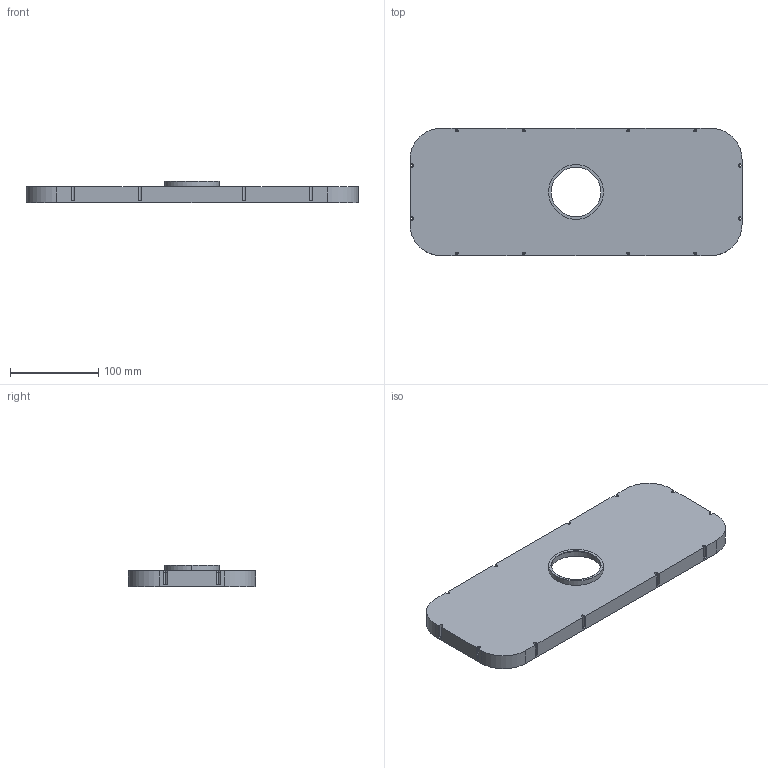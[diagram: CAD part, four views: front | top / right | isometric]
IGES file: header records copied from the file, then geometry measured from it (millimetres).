
Start section: IMSI TurboCAD v14.0
Global section: author: NULL; organization: NULL; date: 20250711.172151; units: millimetre
Bounding box: 376 x 144 x 24 mm (x, y, z)
Surface area: 138933.5 mm2 (no closed solid volume)
Topology: 0 solids, 0 shells, 131 faces, 758 edges, 760 vertices
Faces by surface type: revolution 70, extrusion 61
